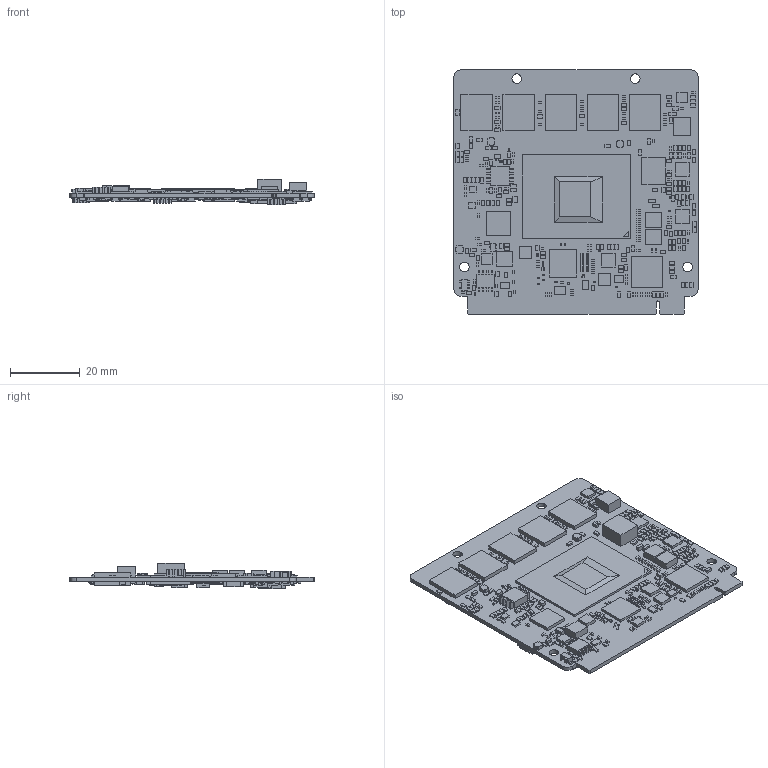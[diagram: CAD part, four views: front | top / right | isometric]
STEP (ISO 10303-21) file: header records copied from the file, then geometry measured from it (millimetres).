
FILE_DESCRIPTION((''),'2;1');
FILE_NAME('EQM-APL_M_ASM','2018-09-25T11:53:38',('jamie_liao'),(''),'CREO PARAMETRIC BY PTC INC, 2017110','CREO PARAMETRIC BY PTC INC, 2017110','');
FILE_SCHEMA(('CONFIG_CONTROL_DESIGN','GEOMETRIC_VALIDATION_PROPERTIES_MIM'));
Products named in the file (54): EQM-APL_M; E14S4020400H; E14S4010400H; E1212201512H; E14S6225802H; E1315753410H; E1315030810H; E0030100001; E121220102HH; E1231302764H; E1231319250H; E14S9222100H; E14S6399044H; E105B700006H-Y1; E1315013812H; E11215224A0H-M1; 0030000021; E0030000000; 0030000003; E1231332726H; E1213103004H; A-R0603; A-R0402; E0030100000; E121220102GH; E1212202220H; E1213107000H; E1301055140R; E118X633760H; A-C0603; A-C0402; E1301005442H; E123130256BH; E14S5F10700H; E14S9068200H; E1315013811H; E1315493500R; E1060701031H; E1314593010H; E1315793410H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
Assembly tree (821 placements, depth 2):
  EQM-APL_M_ASM
    EQM-APL_M
    E14S4020400H  x2
    E14S4010400H  x2
    E1212201512H
    E14S6225802H  x2
    E1315753410H
    E1315030810H
    E0030100001  x8
    E121220102HH
    E1231302764H
    E1231319250H
    E14S9222100H
    E14S6399044H
    E105B700006H-Y1  x42
    E1315013812H
    E11215224A0H-M1  x47
    0030000021
    E0030000000  x14
    0030000003  x8
    E1231332726H
    E1213103004H  x2
    A-R0603  x4
    A-R0402  x319
    E0030100000  x6
    E121220102GH  x2
    E1212202220H
    E1213107000H  x3
    E1301055140R  x3
    E118X633760H  x4
    A-C0603  x44
    A-C0402  x250
    E1301005442H
    E123130256BH
    E14S5F10700H  x2
    E14S9068200H
    E1315013811H  x11
    E1315493500R
    E1060701031H  x2
    E1314593010H
    E1315793410H  x2
    E14S3800300H  x2
    E14S3019801H
    E14S4030400H  x2
    E14S3820700H
    E14S3520900H
    E14S3360100H  x2
    E14S4021003H
    E14S4751101H
    E14S6104G57H  x9
    E14S4852802H
    E14S6226641H
    AVALUE-APOLLO_LAKE
    EQM-APL_A1
Bounding box: 70 x 70 x 7.36 mm (x, y, z)
Volume: 9219 mm3; surface area: 19683.8 mm2
Topology: 820 solids, 820 shells, 5242 faces, 10797 edges, 7198 vertices
Faces by surface type: plane 5181, cylinder 61
Entity records: 28815 total; most frequent: CARTESIAN_POINT 4529, DIRECTION 4191, ORIENTED_EDGE 2622, AXIS2_PLACEMENT_3D 1461, EDGE_CURVE 1311, VECTOR 1269, LINE 1269, PROPERTY_DEFINITION 1187
